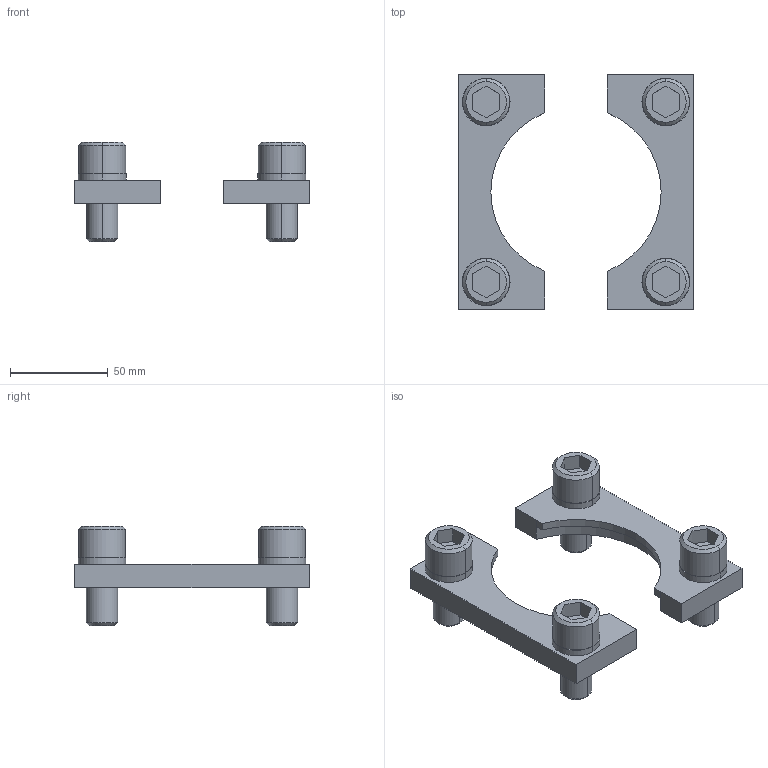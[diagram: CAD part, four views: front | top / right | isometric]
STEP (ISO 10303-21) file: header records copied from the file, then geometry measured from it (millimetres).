
FILE_DESCRIPTION(/* description */ (''),/* implementation_level */ '2;1');
FILE_NAME(/* name */ '3d_sf95_05185_r00.stp',/* time_stamp */ '2011-01-10T14:11:13+09:00',/* author */ ('MISUMI'),/* organization */ (''),/* preprocessor_version */ 'ST-DEVELOPER v11',/* originating_system */ 'UGS - NX 5.0',/* authorisation */ '');
FILE_SCHEMA (('CONFIG_CONTROL_DESIGN'));
Length unit declared in the file: millimetre
Products named in the file (1): 3d_sf95_05185_r00
Bounding box: 120 x 120 x 51 mm (x, y, z)
Volume: 123456.7 mm3; surface area: 44349.1 mm2
Topology: 10 solids, 10 shells, 136 faces, 304 edges, 196 vertices
Faces by surface type: plane 76, cylinder 44, cone 16
Entity records: 3856 total; most frequent: DIRECTION 682, CARTESIAN_POINT 637, ORIENTED_EDGE 608, EDGE_CURVE 304, AXIS2_PLACEMENT_3D 241, LINE 200, VECTOR 200, VERTEX_POINT 196
